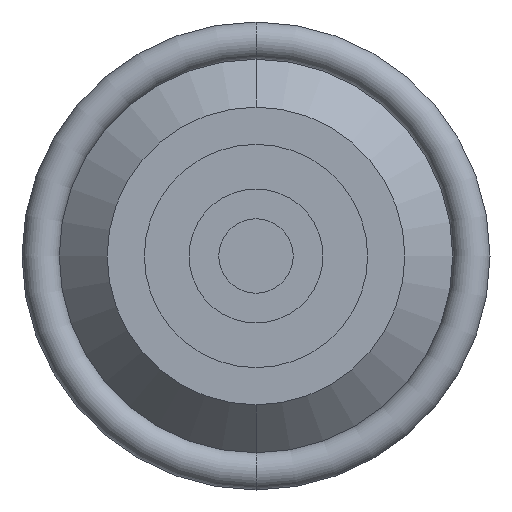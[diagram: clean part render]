
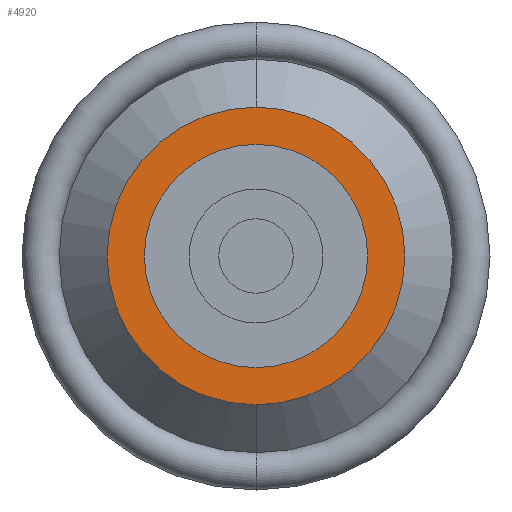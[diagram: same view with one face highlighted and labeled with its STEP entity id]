
A CAD part, front view. The second image highlights one B-rep face of the part: STEP entity #4920.
In plain terms, the highlighted planar face has unit normal (0, -1, 0).
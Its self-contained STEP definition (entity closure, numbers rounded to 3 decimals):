
#1742 = CARTESIAN_POINT ( 'NONE',  ( 0., -11., 0. ) ) ;
#1757 = DIRECTION ( 'NONE',  ( 0., 0., -1. ) ) ;
#1758 = DIRECTION ( 'NONE',  ( 0., -1., 0. ) ) ;
#1759 = AXIS2_PLACEMENT_3D ( 'NONE', #1742, #1758, #1757 ) ;
#1763 = DIRECTION ( 'NONE',  ( 0., -1., 0. ) ) ;
#1769 = CIRCLE ( 'NONE', #1759, 7.5 ) ;
#1804 = DIRECTION ( 'NONE',  ( 0., 0., -1. ) ) ;
#1805 = AXIS2_PLACEMENT_3D ( 'NONE', #1809, #1763, #1804 ) ;
#1809 = CARTESIAN_POINT ( 'NONE',  ( 0., -11., 0. ) ) ;
#1813 = CIRCLE ( 'NONE', #1805, 10. ) ;
#1853 = DIRECTION ( 'NONE',  ( 0., 0., -1. ) ) ;
#1858 = FACE_BOUND ( 'NONE', #4869, .T. ) ;
#1865 = FACE_OUTER_BOUND ( 'NONE', #4879, .T. ) ;
#1868 = DIRECTION ( 'NONE',  ( 0., -1., 0. ) ) ;
#1869 = CARTESIAN_POINT ( 'NONE',  ( 10., -11., 0. ) ) ;
#1874 = AXIS2_PLACEMENT_3D ( 'NONE', #1869, #1868, #1853 ) ;
#1875 = PLANE ( 'NONE',  #1874 ) ;
#3836 = DIRECTION ( 'NONE',  ( 0., -1., 0. ) ) ;
#3837 = CARTESIAN_POINT ( 'NONE',  ( 0., -11., 0. ) ) ;
#3859 = CARTESIAN_POINT ( 'NONE',  ( 0., -11., -7.5 ) ) ;
#3860 = AXIS2_PLACEMENT_3D ( 'NONE', #3837, #3836, #3895 ) ;
#3862 = CARTESIAN_POINT ( 'NONE',  ( 0., -11., 7.5 ) ) ;
#3866 = CIRCLE ( 'NONE', #3860, 7.5 ) ;
#3895 = DIRECTION ( 'NONE',  ( 0., 0., -1. ) ) ;
#3902 = CARTESIAN_POINT ( 'NONE',  ( 0., -11., -10. ) ) ;
#3930 = DIRECTION ( 'NONE',  ( 0., 0., -1. ) ) ;
#3931 = DIRECTION ( 'NONE',  ( 0., -1., 0. ) ) ;
#3932 = CARTESIAN_POINT ( 'NONE',  ( 0., -11., 0. ) ) ;
#3944 = AXIS2_PLACEMENT_3D ( 'NONE', #3932, #3931, #3930 ) ;
#3954 = CARTESIAN_POINT ( 'NONE',  ( 0., -11., 10. ) ) ;
#3955 = CIRCLE ( 'NONE', #3944, 10. ) ;
#4857 = EDGE_CURVE ( 'NONE', #5876, #5864, #1769, .T. ) ;
#4861 = ORIENTED_EDGE ( 'NONE', *, *, #4866, .T. ) ;
#4866 = EDGE_CURVE ( 'NONE', #5920, #5919, #1813, .T. ) ;
#4869 = EDGE_LOOP ( 'NONE', ( #4922, #4923 ) ) ;
#4879 = EDGE_LOOP ( 'NONE', ( #4921, #4861 ) ) ;
#4920 = ADVANCED_FACE ( 'NONE', ( #1865, #1858 ), #1875, .T. ) ;
#4921 = ORIENTED_EDGE ( 'NONE', *, *, #5925, .T. ) ;
#4922 = ORIENTED_EDGE ( 'NONE', *, *, #4857, .F. ) ;
#4923 = ORIENTED_EDGE ( 'NONE', *, *, #5872, .F. ) ;
#5864 = VERTEX_POINT ( 'NONE', #3862 ) ;
#5872 = EDGE_CURVE ( 'NONE', #5864, #5876, #3866, .T. ) ;
#5876 = VERTEX_POINT ( 'NONE', #3859 ) ;
#5919 = VERTEX_POINT ( 'NONE', #3902 ) ;
#5920 = VERTEX_POINT ( 'NONE', #3954 ) ;
#5925 = EDGE_CURVE ( 'NONE', #5919, #5920, #3955, .T. ) ;
